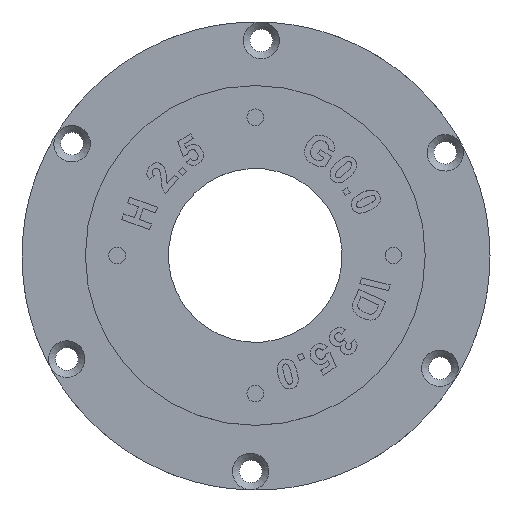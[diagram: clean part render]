
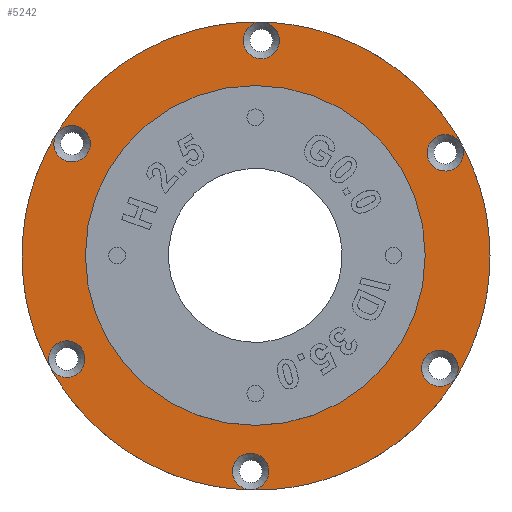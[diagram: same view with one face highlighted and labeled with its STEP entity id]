
A CAD part, top view. The second image highlights one B-rep face of the part: STEP entity #5242.
In plain terms, the highlighted planar face has unit normal (0, 0, 1).
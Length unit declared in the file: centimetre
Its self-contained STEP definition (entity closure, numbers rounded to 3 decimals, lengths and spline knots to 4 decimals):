
#972=PLANE($,#5390);
#1349=B_SPLINE_CURVE_WITH_KNOTS($,3,(#11142,#11143,#11144,#11145,#11146,
#11147,#11148,#11149,#11150,#11151,#11152,#11153,#11154),.UNSPECIFIED.,
 .F.,.F.,(4,3,3,3,4),(0.,1.4699,1.6054,3.205,
3.5626),.UNSPECIFIED.);
#1351=B_SPLINE_CURVE_WITH_KNOTS($,3,(#11453,#11454,#11455,#11456,#11457,
#11458,#11459,#11460,#11461,#11462,#11463,#11464,#11465,#11466,#11467,#11468),
 .UNSPECIFIED.,.F.,.F.,(4,3,3,3,3,4),(2.6317,3.9463,
4.5152,5.0353,5.0484,6.1932),
 .UNSPECIFIED.);
#1390=FACE_BOUND($,#2008,.T.);
#1391=FACE_BOUND($,#2009,.T.);
#1392=FACE_BOUND($,#2010,.T.);
#1393=FACE_BOUND($,#2011,.T.);
#1394=FACE_BOUND($,#2012,.T.);
#1395=FACE_BOUND($,#2013,.T.);
#1396=FACE_BOUND($,#2014,.T.);
#1686=FACE_OUTER_BOUND($,#2007,.T.);
#2007=EDGE_LOOP($,(#4902));
#2008=EDGE_LOOP($,(#4903));
#2009=EDGE_LOOP($,(#4904));
#2010=EDGE_LOOP($,(#4905));
#2011=EDGE_LOOP($,(#4906,#4907,#4908,#4909));
#2012=EDGE_LOOP($,(#4910));
#2013=EDGE_LOOP($,(#4911));
#2014=EDGE_LOOP($,(#4912));
#2074=CIRCLE($,#5385,3.2259);
#2077=CIRCLE($,#5389,3.2561);
#2078=CIRCLE($,#5391,4.75);
#2079=CIRCLE($,#5392,0.37);
#2080=CIRCLE($,#5393,0.37);
#2081=CIRCLE($,#5394,0.37);
#2082=CIRCLE($,#5395,0.37);
#2083=CIRCLE($,#5396,0.37);
#2084=CIRCLE($,#5397,0.37);
#2589=VERTEX_POINT($,#10078);
#2590=VERTEX_POINT($,#10101);
#2609=VERTEX_POINT($,#10676);
#2610=VERTEX_POINT($,#10690);
#2616=VERTEX_POINT($,#11489);
#2617=VERTEX_POINT($,#11491);
#2618=VERTEX_POINT($,#11493);
#2619=VERTEX_POINT($,#11495);
#2620=VERTEX_POINT($,#11497);
#2621=VERTEX_POINT($,#11499);
#2622=VERTEX_POINT($,#11501);
#3357=EDGE_CURVE($,#2590,#2589,#2074,.F.);
#3377=EDGE_CURVE($,#2610,#2609,#2077,.T.);
#3384=EDGE_CURVE($,#2609,#2590,#1349,.T.);
#3386=EDGE_CURVE($,#2589,#2610,#1351,.T.);
#3388=EDGE_CURVE($,#2616,#2616,#2078,.T.);
#3389=EDGE_CURVE($,#2617,#2617,#2079,.T.);
#3390=EDGE_CURVE($,#2618,#2618,#2080,.T.);
#3391=EDGE_CURVE($,#2619,#2619,#2081,.T.);
#3392=EDGE_CURVE($,#2620,#2620,#2082,.T.);
#3393=EDGE_CURVE($,#2621,#2621,#2083,.T.);
#3394=EDGE_CURVE($,#2622,#2622,#2084,.T.);
#4902=ORIENTED_EDGE($,*,*,#3388,.T.);
#4903=ORIENTED_EDGE($,*,*,#3389,.F.);
#4904=ORIENTED_EDGE($,*,*,#3390,.F.);
#4905=ORIENTED_EDGE($,*,*,#3391,.F.);
#4906=ORIENTED_EDGE($,*,*,#3386,.T.);
#4907=ORIENTED_EDGE($,*,*,#3377,.T.);
#4908=ORIENTED_EDGE($,*,*,#3384,.T.);
#4909=ORIENTED_EDGE($,*,*,#3357,.T.);
#4910=ORIENTED_EDGE($,*,*,#3392,.F.);
#4911=ORIENTED_EDGE($,*,*,#3393,.F.);
#4912=ORIENTED_EDGE($,*,*,#3394,.F.);
#5242=ADVANCED_FACE($,(#1686,#1390,#1391,#1392,#1393,#1394,#1395,#1396),
#972,.T.);
#5385=AXIS2_PLACEMENT_3D($,#10102,#6020,#6021);
#5389=AXIS2_PLACEMENT_3D($,#10691,#6028,#6029);
#5390=AXIS2_PLACEMENT_3D($,#11488,#6030,#6031);
#5391=AXIS2_PLACEMENT_3D($,#11490,#6032,#6033);
#5392=AXIS2_PLACEMENT_3D($,#11492,#6034,#6035);
#5393=AXIS2_PLACEMENT_3D($,#11494,#6036,#6037);
#5394=AXIS2_PLACEMENT_3D($,#11496,#6038,#6039);
#5395=AXIS2_PLACEMENT_3D($,#11498,#6040,#6041);
#5396=AXIS2_PLACEMENT_3D($,#11500,#6042,#6043);
#5397=AXIS2_PLACEMENT_3D($,#11502,#6044,#6045);
#6020=DIRECTION('center_axis',(0.,0.,1.));
#6021=DIRECTION('ref_axis',(-1.,0.,0.));
#6028=DIRECTION('center_axis',(0.,0.,-1.));
#6029=DIRECTION('ref_axis',(-1.,0.,0.));
#6030=DIRECTION('center_axis',(0.,0.,1.));
#6031=DIRECTION('ref_axis',(-1.,0.,0.));
#6032=DIRECTION('center_axis',(0.,0.,1.));
#6033=DIRECTION('ref_axis',(-1.,0.,0.));
#6034=DIRECTION('center_axis',(0.,0.,1.));
#6035=DIRECTION('ref_axis',(-1.,0.,0.));
#6036=DIRECTION('center_axis',(0.,0.,1.));
#6037=DIRECTION('ref_axis',(-1.,0.,0.));
#6038=DIRECTION('center_axis',(0.,0.,1.));
#6039=DIRECTION('ref_axis',(-1.,0.,0.));
#6040=DIRECTION('center_axis',(0.,0.,1.));
#6041=DIRECTION('ref_axis',(-1.,0.,0.));
#6042=DIRECTION('center_axis',(0.,0.,1.));
#6043=DIRECTION('ref_axis',(-1.,0.,0.));
#6044=DIRECTION('center_axis',(0.,0.,1.));
#6045=DIRECTION('ref_axis',(-1.,0.,0.));
#10078=CARTESIAN_POINT('',(-0.9474,3.0713,3.31));
#10101=CARTESIAN_POINT('',(-3.0643,-0.97,3.31));
#10102=CARTESIAN_POINT('Origin',(0.0147,-0.0078,
3.31));
#10676=CARTESIAN_POINT('',(-0.5437,-3.2156,3.31));
#10690=CARTESIAN_POINT('',(2.3339,2.2778,3.31));
#10691=CARTESIAN_POINT('Origin',(0.0147,-0.0078,
3.31));
#11142=CARTESIAN_POINT('Ctrl Pts',(-0.5437,-3.2156,
3.31));
#11143=CARTESIAN_POINT('Ctrl Pts',(-1.0257,-3.1274,
3.31));
#11144=CARTESIAN_POINT('Ctrl Pts',(-1.4843,-2.9298,
3.31));
#11145=CARTESIAN_POINT('Ctrl Pts',(-1.8788,-2.6416,
3.31));
#11146=CARTESIAN_POINT('Ctrl Pts',(-1.9151,-2.615,
3.31));
#11147=CARTESIAN_POINT('Ctrl Pts',(-1.9509,-2.5877,
3.31));
#11148=CARTESIAN_POINT('Ctrl Pts',(-1.9861,-2.5596,
3.31));
#11149=CARTESIAN_POINT('Ctrl Pts',(-2.4012,-2.2285,
3.31));
#11150=CARTESIAN_POINT('Ctrl Pts',(-2.7337,-1.7921,
3.31));
#11151=CARTESIAN_POINT('Ctrl Pts',(-2.9426,-1.3045,
3.31));
#11152=CARTESIAN_POINT('Ctrl Pts',(-2.9893,-1.1955,3.31));
#11153=CARTESIAN_POINT('Ctrl Pts',(-3.0299,-1.0838,3.31));
#11154=CARTESIAN_POINT('Ctrl Pts',(-3.0643,-0.9701,
3.31));
#11453=CARTESIAN_POINT('Ctrl Pts',(-0.9474,3.0713,3.31));
#11454=CARTESIAN_POINT('Ctrl Pts',(-0.5309,3.2053,
3.31));
#11455=CARTESIAN_POINT('Ctrl Pts',(-0.0884,3.2522,
3.31));
#11456=CARTESIAN_POINT('Ctrl Pts',(0.347,3.2118,3.31));
#11457=CARTESIAN_POINT('Ctrl Pts',(0.5354,3.1944,3.31));
#11458=CARTESIAN_POINT('Ctrl Pts',(0.7216,3.1606,3.31));
#11459=CARTESIAN_POINT('Ctrl Pts',(0.9035,3.1104,3.31));
#11460=CARTESIAN_POINT('Ctrl Pts',(1.0698,3.0646,3.31));
#11461=CARTESIAN_POINT('Ctrl Pts',(1.2325,3.005,3.31));
#11462=CARTESIAN_POINT('Ctrl Pts',(1.39,2.9326,3.31));
#11463=CARTESIAN_POINT('Ctrl Pts',(1.394,2.9308,3.31));
#11464=CARTESIAN_POINT('Ctrl Pts',(1.398,2.929,3.31));
#11465=CARTESIAN_POINT('Ctrl Pts',(1.4019,2.9271,3.31));
#11466=CARTESIAN_POINT('Ctrl Pts',(1.7481,2.7664,3.31));
#11467=CARTESIAN_POINT('Ctrl Pts',(2.0639,2.5468,3.31));
#11468=CARTESIAN_POINT('Ctrl Pts',(2.3341,2.2781,3.31));
#11488=CARTESIAN_POINT('Origin',(0.0147,-0.0078,
3.31));
#11489=CARTESIAN_POINT('',(4.7647,-0.0078,3.31));
#11490=CARTESIAN_POINT('Origin',(0.0147,-0.0078,
3.31));
#11491=CARTESIAN_POINT('',(-3.4567,-2.1016,3.31));
#11492=CARTESIAN_POINT('Origin',(-3.8267,-2.1016,3.31));
#11493=CARTESIAN_POINT('',(4.1188,-2.2876,3.31));
#11494=CARTESIAN_POINT('Origin',(3.7488,-2.2876,3.31));
#11495=CARTESIAN_POINT('',(0.4921,4.3659,3.31));
#11496=CARTESIAN_POINT('Origin',(0.1221,4.3659,3.31));
#11497=CARTESIAN_POINT('',(-3.3493,2.2721,3.31));
#11498=CARTESIAN_POINT('Origin',(-3.7193,2.2721,3.31));
#11499=CARTESIAN_POINT('',(4.2262,2.0861,3.31));
#11500=CARTESIAN_POINT('Origin',(3.8562,2.0861,3.31));
#11501=CARTESIAN_POINT('',(0.2773,-4.3814,3.31));
#11502=CARTESIAN_POINT('Origin',(-0.0927,-4.3814,
3.31));
